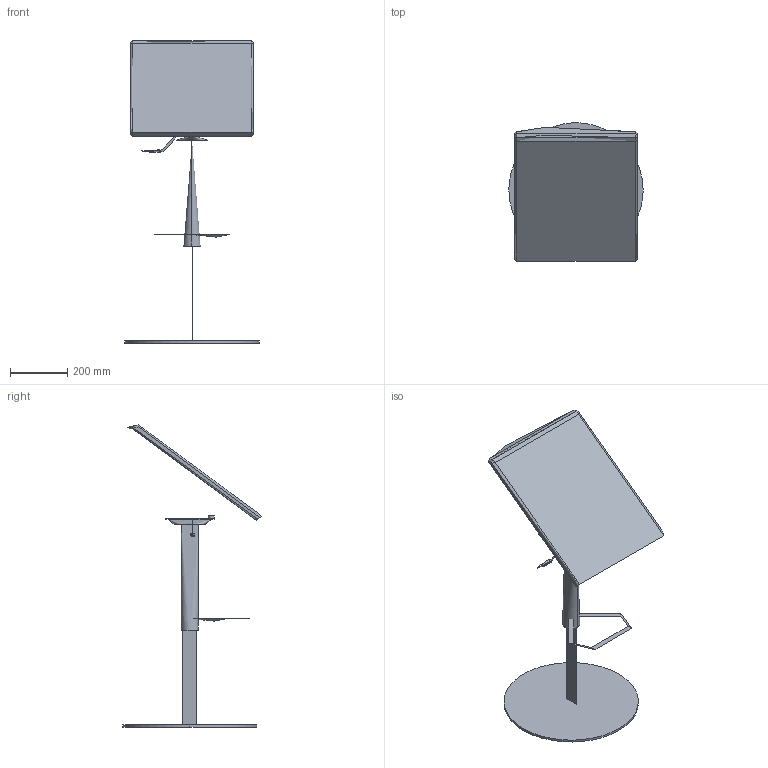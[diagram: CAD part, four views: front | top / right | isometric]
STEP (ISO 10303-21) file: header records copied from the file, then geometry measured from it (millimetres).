
FILE_DESCRIPTION(/* description */ (''),/* implementation_level */ '2;1');
FILE_NAME(/* name */ 'TWIST2~1',/* time_stamp */ '2016-07-06T10:59:49+02:00',/* author */ (''),/* organization */ (''),/* preprocessor_version */ 'ST-DEVELOPER v15',/* originating_system */ '',/* authorisation */ '');
FILE_SCHEMA (('CONFIG_CONTROL_DESIGN'));
Length unit declared in the file: millimetre
Products named in the file (1): Document
Bounding box: 470 x 484.51 x 1058.1 mm (x, y, z)
Volume: 11956672.8 mm3; surface area: 1287208.9 mm2
Topology: 6 solids, 10 shells, 75 faces, 160 edges, 100 vertices
Faces by surface type: bspline 54, plane 21
Entity records: 6243 total; most frequent: CARTESIAN_POINT 5237, ORIENTED_EDGE 300, EDGE_CURVE 157, VERTEX_POINT 96, EDGE_LOOP 76, ADVANCED_FACE 75, FACE_OUTER_BOUND 75, B_SPLINE_CURVE_WITH_KNOTS 34
